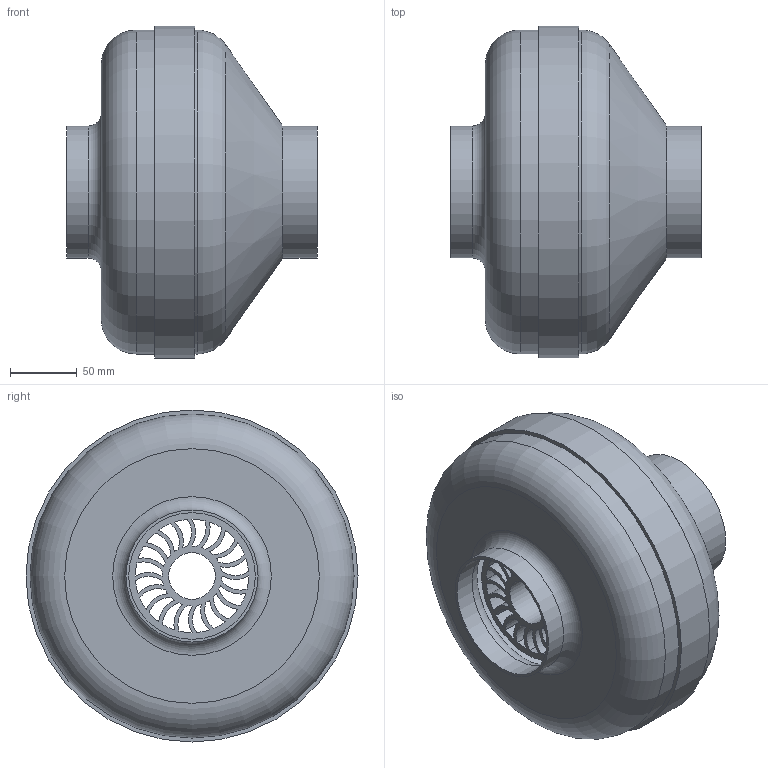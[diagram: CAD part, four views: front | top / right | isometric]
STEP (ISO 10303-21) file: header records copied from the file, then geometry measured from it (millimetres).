
FILE_DESCRIPTION(/* description */ (''),/* implementation_level */ '2;1');
FILE_NAME(/* name */ 'Z:\Output\RR 100 C-05654-020.stp',/* time_stamp */ '2017-05-05T16:58:38+02:00',/* author */ ('Engineering1'),/* organization */ (''),/* preprocessor_version */ 'ST-DEVELOPER v16.5',/* originating_system */ 'Autodesk Inventor 2017',/* authorisation */ '');
FILE_SCHEMA (('AUTOMOTIVE_DESIGN { 1 0 10303 214 3 1 1 }'));
Length unit declared in the file: millimetre
Products named in the file (1): RR-1
Bounding box: 188 x 249 x 249 mm (x, y, z)
Volume: 475808.6 mm3; surface area: 365521 mm2
Topology: 2 solids, 2 shells, 106 faces, 286 edges, 188 vertices
Faces by surface type: cylinder 90, plane 8, torus 6, cone 2
Full cylindrical faces by diameter (mm): 35 x1, 95 x3, 99 x2, 239 x1, 243 x2, 249 x1
Entity records: 3441 total; most frequent: DIRECTION 666, CARTESIAN_POINT 559, ORIENTED_EDGE 532, AXIS2_PLACEMENT_3D 293, EDGE_CURVE 266, CIRCLE 186, VERTEX_POINT 186, EDGE_LOOP 172
